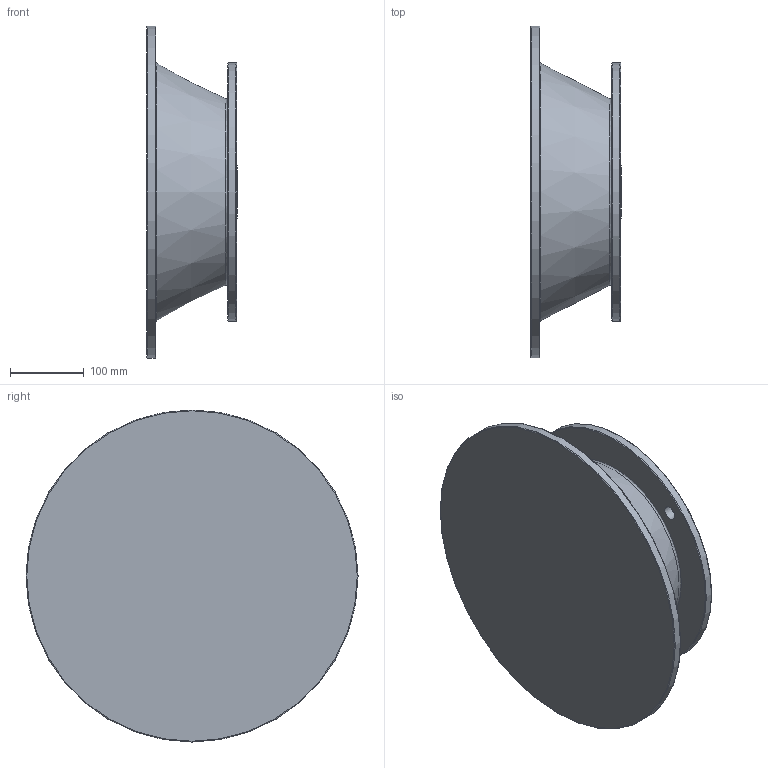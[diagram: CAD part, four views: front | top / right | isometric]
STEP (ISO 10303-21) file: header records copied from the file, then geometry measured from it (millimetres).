
FILE_DESCRIPTION((''),'2;1');
FILE_NAME('D:\PAWEŁ\ZLECENIA\2011 DualSystem\Przekładnie DR\DR140\STEP\160_B5_L121,5.stp','2012-06-11T12:55:45',('admin'),(''),'Autodesk Inventor 2009','Autodesk Inventor 2009','');
FILE_SCHEMA(('AUTOMOTIVE_DESIGN { 1 0 10303 214 1 1 1 1 }'));
Length unit declared in the file: millimetre
Products named in the file (1): 160_B5_L121,5
Bounding box: 122 x 450 x 450 mm (x, y, z)
Volume: 3401104.9 mm3; surface area: 688556.6 mm2
Topology: 1 solids, 1 shells, 30 faces, 58 edges, 36 vertices
Faces by surface type: plane 11, cylinder 6, bspline 6, torus 5, cone 2
Full cylindrical faces by diameter (mm): 72 x1, 236.514 x1, 250 x1, 350 x1, 450 x1
Entity records: 895 total; most frequent: CARTESIAN_POINT 281, DIRECTION 120, ORIENTED_EDGE 80, EDGE_LOOP 62, AXIS2_PLACEMENT_3D 55, EDGE_CURVE 40, VERTEX_POINT 36, FACE_BOUND 32
